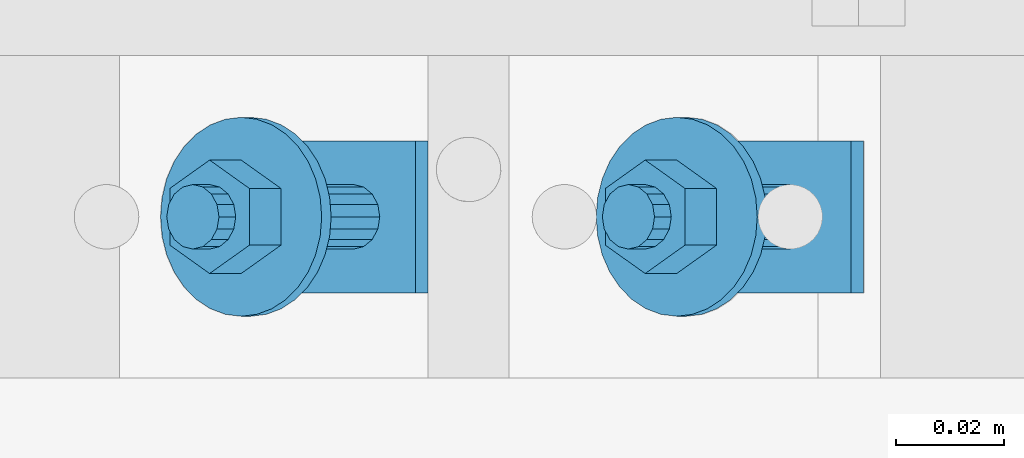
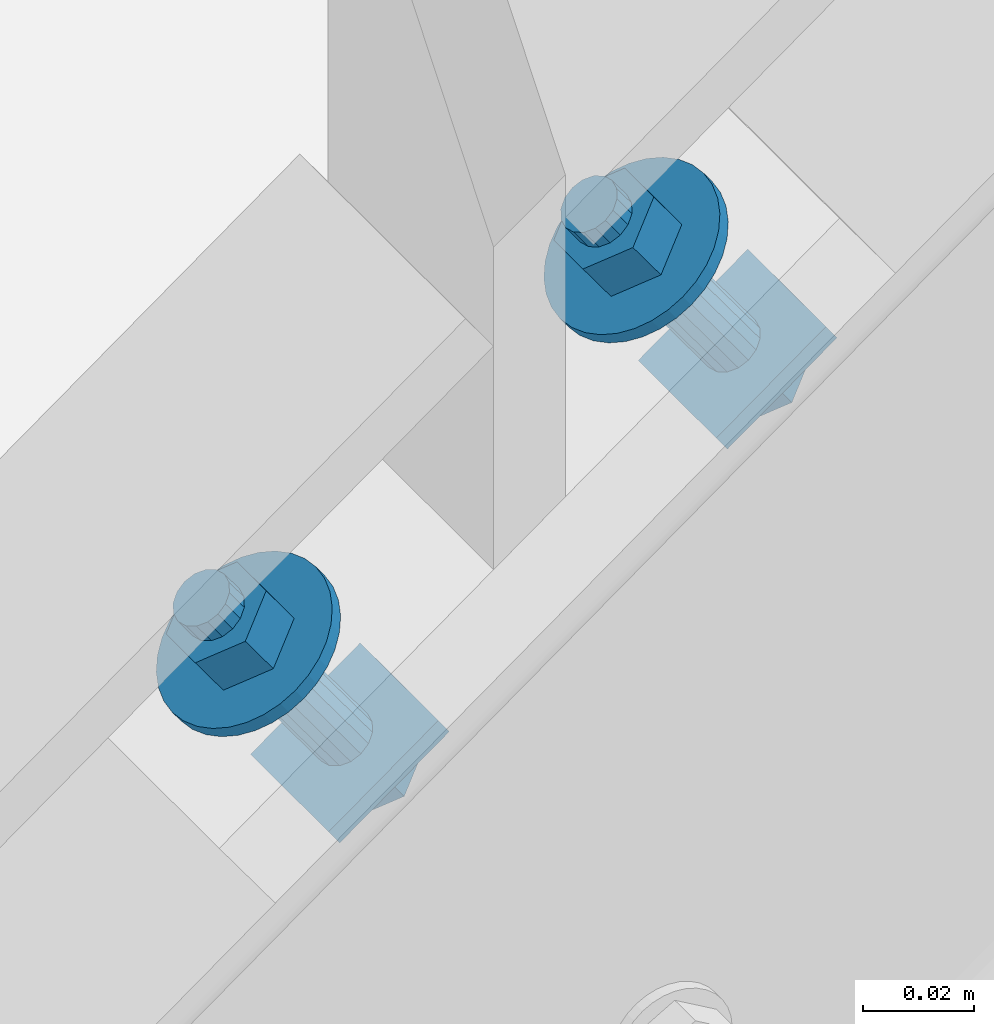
# One storey, part 324 of 825: 1 mechanical fastener.
"""IFC2X3 building model written with IfcOpenShell, lengths in millimetres."""

from ifc_helpers import new_model, entity, si_unit, converted_unit, origin_with_axes, place, context, project, spatial, faceted_brep, element, save


model = new_model("IFC2X3")

# Units and contexts
model_context = context("Model", 3, precision=1e-09, world=origin_with_axes())
ifc_project = project(units=[si_unit("LENGTHUNIT", "METRE", prefix="MILLI"), si_unit("AREAUNIT", "SQUARE_METRE"), si_unit("VOLUMEUNIT", "CUBIC_METRE"), converted_unit("PLANEANGLEUNIT", "DEGREE", entity("IfcPlaneAngleMeasure", 0.01745329), si_unit("PLANEANGLEUNIT", "RADIAN"), dimensions=[0, 0, 0, 0, 0, 0, 0])], contexts=[model_context])

# Site, building, storey
site_placement = place(None, origin_with_axes())
site = spatial("IfcSite", under=ifc_project, at=site_placement, Name="Cnopf'sche Kinderklinik", CompositionType="ELEMENT")
building_placement = place(site_placement, origin_with_axes())
building = spatial("IfcBuilding", under=site, at=building_placement, Name="Struktur 1", CompositionType="ELEMENT")
storey_placement = place(building_placement, origin_with_axes())
storey = spatial("IfcBuildingStorey", under=building, at=storey_placement, Name="Default Storey", CompositionType="ELEMENT", Elevation=0.0)

# Mechanical fastener
mechanical_fastener_placement = place(None, origin_with_axes())
element("IfcMechanicalFastener", 1, at=mechanical_fastener_placement, inside=storey, ObjectType="Bolt#501", NominalDiameter=12.0, NominalLength=55.0, context=model_context, shape_type="Brep", body=[
    faceted_brep([(5972.646640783, 6077.59483628, 13131.147669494), (5970.301104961, 6077.59483628, 13134.38780247), (5947.389904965, 6077.59483628, 13117.802359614), (5949.735440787, 6077.59483628, 13114.562226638), (5947.389904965, 6105.879107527, 13117.802359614), (5949.735440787, 6105.879107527, 13114.562226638), (5970.301104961, 6105.879107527, 13134.38780247), (5972.646640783, 6105.879107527, 13131.147669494)], [[[0, 1, 2, 3]], [[3, 2, 4, 5]], [[5, 4, 6, 7]], [[7, 6, 1, 0]], [[3, 5, 7, 0]], [[2, 1, 6, 4]]]),
    faceted_brep([(5891.643316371, 6077.59483628, 13072.509273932), (5889.297780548, 6077.59483628, 13075.749406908), (5866.386580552, 6077.59483628, 13059.163964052), (5868.732116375, 6077.59483628, 13055.923831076), (5866.386580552, 6105.879107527, 13059.163964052), (5868.732116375, 6105.879107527, 13055.923831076), (5889.297780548, 6105.879107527, 13075.749406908), (5891.643316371, 6105.879107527, 13072.509273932)], [[[0, 1, 2, 3]], [[3, 2, 4, 5]], [[5, 4, 6, 7]], [[7, 6, 1, 0]], [[3, 5, 7, 0]], [[2, 1, 6, 4]]]),
    faceted_brep([(5972.614536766, 6086.729471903, 13121.865550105), (5968.216657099, 6086.729471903, 13127.940799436), (5961.191040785, 6081.721971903, 13122.854948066), (5965.588920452, 6081.721971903, 13116.779698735), (5954.165424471, 6086.729471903, 13117.769096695), (5958.563304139, 6086.729471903, 13111.693847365), (5954.165424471, 6096.744471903, 13117.769096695), (5958.563304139, 6096.744471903, 13111.693847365), (5961.191040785, 6101.751971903, 13122.854948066), (5965.588920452, 6101.751971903, 13116.779698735), (5968.216657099, 6096.744471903, 13127.940799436), (5972.614536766, 6096.744471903, 13121.865550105)], [[[0, 1, 2, 3]], [[3, 2, 4, 5]], [[5, 4, 6, 7]], [[7, 6, 8, 9]], [[9, 8, 10, 11]], [[11, 10, 1, 0]], [[3, 5, 7, 9, 11, 0]], [[2, 1, 10, 8, 6, 4]]]),
    faceted_brep([(5891.611212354, 6086.729471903, 13063.227154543), (5887.213332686, 6086.729471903, 13069.302403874), (5880.187716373, 6081.721971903, 13064.216552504), (5884.58559604, 6081.721971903, 13058.141303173), (5873.162100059, 6086.729471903, 13059.130701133), (5877.559979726, 6086.729471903, 13053.055451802), (5873.162100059, 6096.744471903, 13059.130701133), (5877.559979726, 6096.744471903, 13053.055451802), (5880.187716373, 6101.751971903, 13064.216552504), (5884.58559604, 6101.751971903, 13058.141303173), (5887.213332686, 6096.744471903, 13069.302403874), (5891.611212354, 6096.744471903, 13063.227154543)], [[[0, 1, 2, 3]], [[3, 2, 4, 5]], [[5, 4, 6, 7]], [[7, 6, 8, 9]], [[9, 8, 10, 11]], [[11, 10, 1, 0]], [[3, 5, 7, 9, 11, 0]], [[2, 1, 10, 8, 6, 4]]]),
    faceted_brep([(5934.820633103, 6091.736971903, 13149.050935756), (5953.985305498, 6091.736971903, 13122.576777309), (5954.355266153, 6089.440871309, 13122.844592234), (5935.190593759, 6089.440871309, 13149.318750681), (5955.408824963, 6087.494331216, 13123.607264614), (5936.244152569, 6087.494331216, 13150.081423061), (5956.98558715, 6086.193694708, 13124.748684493), (5937.820914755, 6086.193694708, 13151.222842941), (5958.845504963, 6085.736971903, 13126.095081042), (5939.680832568, 6085.736971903, 13152.56923949), (5960.705422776, 6086.193694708, 13127.441477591), (5941.540750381, 6086.193694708, 13153.915636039), (5962.282184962, 6087.494331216, 13128.582897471), (5943.117512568, 6087.494331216, 13155.057055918), (5963.335743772, 6089.440871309, 13129.345569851), (5944.171071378, 6089.440871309, 13155.819728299), (5963.705704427, 6091.736971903, 13129.613384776), (5944.541032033, 6091.736971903, 13156.087543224), (5963.335743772, 6094.033072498, 13129.345569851), (5944.171071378, 6094.033072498, 13155.819728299), (5962.282184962, 6095.97961259, 13128.582897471), (5943.117512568, 6095.97961259, 13155.057055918), (5960.705422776, 6097.280249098, 13127.441477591), (5941.540750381, 6097.280249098, 13153.915636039), (5958.845504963, 6097.736971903, 13126.095081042), (5939.680832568, 6097.736971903, 13152.56923949), (5956.98558715, 6097.280249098, 13124.748684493), (5937.820914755, 6097.280249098, 13151.222842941), (5955.408824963, 6095.97961259, 13123.607264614), (5936.244152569, 6095.97961259, 13150.081423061), (5954.355266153, 6094.033072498, 13122.844592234), (5935.190593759, 6094.033072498, 13149.318750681)], [[[0, 1, 2, 3]], [[3, 2, 4, 5]], [[5, 4, 6, 7]], [[7, 6, 8, 9]], [[9, 8, 10, 11]], [[11, 10, 12, 13]], [[13, 12, 14, 15]], [[15, 14, 16, 17]], [[17, 16, 18, 19]], [[19, 18, 20, 21]], [[21, 20, 22, 23]], [[23, 22, 24, 25]], [[25, 24, 26, 27]], [[27, 26, 28, 29]], [[29, 28, 30, 31]], [[31, 30, 1, 0]], [[2, 1, 30, 28, 26, 24, 22, 20, 18, 16, 14, 12, 10, 8, 6, 4]], [[31, 0, 3, 5, 7, 9, 11, 13, 15, 17, 19, 21, 23, 25, 27, 29]]]),
    faceted_brep([(5853.817308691, 6091.736971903, 13090.412540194), (5872.981981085, 6091.736971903, 13063.938381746), (5873.351941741, 6089.440871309, 13064.206196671), (5854.187269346, 6089.440871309, 13090.680355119), (5874.405500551, 6087.494331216, 13064.968869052), (5855.240828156, 6087.494331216, 13091.443027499), (5875.982262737, 6086.193694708, 13066.110288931), (5856.817590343, 6086.193694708, 13092.584447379), (5877.84218055, 6085.736971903, 13067.45668548), (5858.677508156, 6085.736971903, 13093.930843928), (5879.702098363, 6086.193694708, 13068.803082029), (5860.537425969, 6086.193694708, 13095.277240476), (5881.27886055, 6087.494331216, 13069.944501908), (5862.114188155, 6087.494331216, 13096.418660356), (5882.33241936, 6089.440871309, 13070.707174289), (5863.167746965, 6089.440871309, 13097.181332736), (5882.702380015, 6091.736971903, 13070.974989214), (5863.537707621, 6091.736971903, 13097.449147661), (5882.33241936, 6094.033072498, 13070.707174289), (5863.167746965, 6094.033072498, 13097.181332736), (5881.27886055, 6095.97961259, 13069.944501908), (5862.114188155, 6095.97961259, 13096.418660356), (5879.702098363, 6097.280249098, 13068.803082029), (5860.537425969, 6097.280249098, 13095.277240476), (5877.84218055, 6097.736971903, 13067.45668548), (5858.677508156, 6097.736971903, 13093.930843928), (5875.982262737, 6097.280249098, 13066.110288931), (5856.817590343, 6097.280249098, 13092.584447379), (5874.405500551, 6095.97961259, 13064.968869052), (5855.240828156, 6095.97961259, 13091.443027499), (5873.351941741, 6094.033072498, 13064.206196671), (5854.187269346, 6094.033072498, 13090.680355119)], [[[0, 1, 2, 3]], [[3, 2, 4, 5]], [[5, 4, 6, 7]], [[7, 6, 8, 9]], [[9, 8, 10, 11]], [[11, 10, 12, 13]], [[13, 12, 14, 15]], [[15, 14, 16, 17]], [[17, 16, 18, 19]], [[19, 18, 20, 21]], [[21, 20, 22, 23]], [[23, 22, 24, 25]], [[25, 24, 26, 27]], [[27, 26, 28, 29]], [[29, 28, 30, 31]], [[31, 30, 1, 0]], [[2, 1, 30, 28, 26, 24, 22, 20, 18, 16, 14, 12, 10, 8, 6, 4]], [[31, 0, 3, 5, 7, 9, 11, 13, 15, 17, 19, 21, 23, 25, 27, 29]]]),
    faceted_brep([(5922.936065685, 6091.736971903, 13144.151236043), (5924.695217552, 6091.736971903, 13141.721136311), (5924.983161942, 6088.127800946, 13141.929579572), (5923.224010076, 6088.127800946, 13144.359679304), (5925.835929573, 6084.657328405, 13142.546898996), (5924.076777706, 6084.657328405, 13144.976998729), (5927.220749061, 6081.458922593, 13143.549371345), (5925.461597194, 6081.458922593, 13145.979471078), (5929.08440257, 6078.655496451, 13144.898472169), (5927.325250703, 6078.655496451, 13147.328571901), (5931.355270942, 6076.354784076, 13146.542356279), (5929.596119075, 6076.354784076, 13148.972456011), (5933.946085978, 6074.645200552, 13148.417850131), (5932.186934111, 6074.645200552, 13150.847949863), (5936.757284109, 6073.592444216, 13150.452879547), (5934.998132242, 6073.592444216, 13152.88297928), (5939.680832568, 6073.236971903, 13152.56923949), (5937.921680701, 6073.236971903, 13154.999339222), (5942.604381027, 6073.592444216, 13154.685599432), (5940.845229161, 6073.592444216, 13157.115699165), (5945.415579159, 6074.645200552, 13156.720628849), (5943.656427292, 6074.645200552, 13159.150728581), (5948.006394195, 6076.354784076, 13158.596122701), (5946.247242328, 6076.354784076, 13161.026222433), (5950.277262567, 6078.655496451, 13160.240006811), (5948.5181107, 6078.655496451, 13162.670106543), (5952.140916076, 6081.458922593, 13161.589107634), (5950.381764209, 6081.458922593, 13164.019207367), (5953.525735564, 6084.657328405, 13162.591579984), (5951.766583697, 6084.657328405, 13165.021679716), (5954.378503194, 6088.127800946, 13163.208899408), (5952.619351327, 6088.127800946, 13165.638999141), (5954.666447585, 6091.736971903, 13163.417342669), (5952.907295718, 6091.736971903, 13165.847442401), (5954.378503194, 6095.346142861, 13163.208899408), (5952.619351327, 6095.346142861, 13165.638999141), (5953.525735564, 6098.816615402, 13162.591579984), (5951.766583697, 6098.816615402, 13165.021679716), (5952.140916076, 6102.015021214, 13161.589107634), (5950.381764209, 6102.015021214, 13164.019207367), (5950.277262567, 6104.818447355, 13160.240006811), (5948.5181107, 6104.818447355, 13162.670106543), (5948.006394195, 6107.119159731, 13158.596122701), (5946.247242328, 6107.119159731, 13161.026222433), (5945.415579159, 6108.828743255, 13156.720628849), (5943.656427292, 6108.828743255, 13159.150728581), (5942.604381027, 6109.881499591, 13154.685599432), (5940.845229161, 6109.881499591, 13157.115699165), (5939.680832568, 6110.236971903, 13152.56923949), (5937.921680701, 6110.236971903, 13154.999339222), (5936.757284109, 6109.881499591, 13150.452879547), (5934.998132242, 6109.881499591, 13152.88297928), (5933.946085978, 6108.828743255, 13148.417850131), (5932.186934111, 6108.828743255, 13150.847949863), (5931.355270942, 6107.119159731, 13146.542356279), (5929.596119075, 6107.119159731, 13148.972456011), (5929.08440257, 6104.818447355, 13144.898472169), (5927.325250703, 6104.818447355, 13147.328571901), (5927.220749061, 6102.015021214, 13143.549371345), (5925.461597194, 6102.015021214, 13145.979471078), (5925.835929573, 6098.816615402, 13142.546898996), (5924.076777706, 6098.816615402, 13144.976998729), (5924.983161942, 6095.346142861, 13141.929579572), (5923.224010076, 6095.346142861, 13144.359679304)], [[[0, 1, 2, 3]], [[3, 2, 4, 5]], [[5, 4, 6, 7]], [[7, 6, 8, 9]], [[9, 8, 10, 11]], [[11, 10, 12, 13]], [[13, 12, 14, 15]], [[15, 14, 16, 17]], [[17, 16, 18, 19]], [[19, 18, 20, 21]], [[21, 20, 22, 23]], [[23, 22, 24, 25]], [[25, 24, 26, 27]], [[27, 26, 28, 29]], [[29, 28, 30, 31]], [[31, 30, 32, 33]], [[33, 32, 34, 35]], [[35, 34, 36, 37]], [[37, 36, 38, 39]], [[39, 38, 40, 41]], [[41, 40, 42, 43]], [[43, 42, 44, 45]], [[45, 44, 46, 47]], [[47, 46, 48, 49]], [[49, 48, 50, 51]], [[51, 50, 52, 53]], [[53, 52, 54, 55]], [[55, 54, 56, 57]], [[57, 56, 58, 59]], [[59, 58, 60, 61]], [[61, 60, 62, 63]], [[63, 62, 1, 0]], [[2, 1, 62, 60, 58, 56, 54, 52, 50, 48, 46, 44, 42, 40, 38, 36, 34, 32, 30, 28, 26, 24, 22, 20, 18, 16, 14, 12, 10, 8, 6, 4]], [[63, 0, 3, 5, 7, 9, 11, 13, 15, 17, 19, 21, 23, 25, 27, 29, 31, 33, 35, 37, 39, 41, 43, 45, 47, 49, 51, 53, 55, 57, 59, 61]]]),
    faceted_brep([(5841.932741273, 6091.736971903, 13085.512840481), (5843.691893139, 6091.736971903, 13083.082740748), (5843.97983753, 6088.127800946, 13083.291184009), (5842.220685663, 6088.127800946, 13085.721283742), (5844.83260516, 6084.657328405, 13083.908503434), (5843.073453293, 6084.657328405, 13086.338603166), (5846.217424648, 6081.458922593, 13084.910975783), (5844.458272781, 6081.458922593, 13087.341075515), (5848.081078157, 6078.655496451, 13086.260076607), (5846.321926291, 6078.655496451, 13088.690176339), (5850.351946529, 6076.354784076, 13087.903960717), (5848.592794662, 6076.354784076, 13090.334060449), (5852.942761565, 6074.645200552, 13089.779454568), (5851.183609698, 6074.645200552, 13092.209554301), (5855.753959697, 6073.592444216, 13091.814483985), (5853.99480783, 6073.592444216, 13094.244583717), (5858.677508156, 6073.236971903, 13093.930843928), (5856.918356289, 6073.236971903, 13096.36094366), (5861.601056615, 6073.592444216, 13096.04720387), (5859.841904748, 6073.592444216, 13098.477303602), (5864.412254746, 6074.645200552, 13098.082233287), (5862.653102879, 6074.645200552, 13100.512333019), (5867.003069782, 6076.354784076, 13099.957727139), (5865.243917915, 6076.354784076, 13102.387826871), (5869.273938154, 6078.655496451, 13101.601611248), (5867.514786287, 6078.655496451, 13104.031710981), (5871.137591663, 6081.458922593, 13102.950712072), (5869.378439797, 6081.458922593, 13105.380811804), (5872.522411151, 6084.657328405, 13103.953184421), (5870.763259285, 6084.657328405, 13106.383284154), (5873.375178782, 6088.127800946, 13104.570503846), (5871.616026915, 6088.127800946, 13107.000603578), (5873.663123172, 6091.736971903, 13104.778947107), (5871.903971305, 6091.736971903, 13107.209046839), (5873.375178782, 6095.346142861, 13104.570503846), (5871.616026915, 6095.346142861, 13107.000603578), (5872.522411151, 6098.816615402, 13103.953184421), (5870.763259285, 6098.816615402, 13106.383284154), (5871.137591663, 6102.015021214, 13102.950712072), (5869.378439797, 6102.015021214, 13105.380811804), (5869.273938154, 6104.818447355, 13101.601611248), (5867.514786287, 6104.818447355, 13104.031710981), (5867.003069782, 6107.119159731, 13099.957727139), (5865.243917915, 6107.119159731, 13102.387826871), (5864.412254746, 6108.828743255, 13098.082233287), (5862.653102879, 6108.828743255, 13100.512333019), (5861.601056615, 6109.881499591, 13096.04720387), (5859.841904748, 6109.881499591, 13098.477303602), (5858.677508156, 6110.236971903, 13093.930843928), (5856.918356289, 6110.236971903, 13096.36094366), (5855.753959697, 6109.881499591, 13091.814483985), (5853.99480783, 6109.881499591, 13094.244583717), (5852.942761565, 6108.828743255, 13089.779454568), (5851.183609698, 6108.828743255, 13092.209554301), (5850.351946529, 6107.119159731, 13087.903960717), (5848.592794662, 6107.119159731, 13090.334060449), (5848.081078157, 6104.818447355, 13086.260076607), (5846.321926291, 6104.818447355, 13088.690176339), (5846.217424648, 6102.015021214, 13084.910975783), (5844.458272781, 6102.015021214, 13087.341075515), (5844.83260516, 6098.816615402, 13083.908503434), (5843.073453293, 6098.816615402, 13086.338603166), (5843.97983753, 6095.346142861, 13083.291184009), (5842.220685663, 6095.346142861, 13085.721283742)], [[[0, 1, 2, 3]], [[3, 2, 4, 5]], [[5, 4, 6, 7]], [[7, 6, 8, 9]], [[9, 8, 10, 11]], [[11, 10, 12, 13]], [[13, 12, 14, 15]], [[15, 14, 16, 17]], [[17, 16, 18, 19]], [[19, 18, 20, 21]], [[21, 20, 22, 23]], [[23, 22, 24, 25]], [[25, 24, 26, 27]], [[27, 26, 28, 29]], [[29, 28, 30, 31]], [[31, 30, 32, 33]], [[33, 32, 34, 35]], [[35, 34, 36, 37]], [[37, 36, 38, 39]], [[39, 38, 40, 41]], [[41, 40, 42, 43]], [[43, 42, 44, 45]], [[45, 44, 46, 47]], [[47, 46, 48, 49]], [[49, 48, 50, 51]], [[51, 50, 52, 53]], [[53, 52, 54, 55]], [[55, 54, 56, 57]], [[57, 56, 58, 59]], [[59, 58, 60, 61]], [[61, 60, 62, 63]], [[63, 62, 1, 0]], [[2, 1, 62, 60, 58, 56, 54, 52, 50, 48, 46, 44, 42, 40, 38, 36, 34, 32, 30, 28, 26, 24, 22, 20, 18, 16, 14, 12, 10, 8, 6, 4]], [[63, 0, 3, 5, 7, 9, 11, 13, 15, 17, 19, 21, 23, 25, 27, 29, 31, 33, 35, 37, 39, 41, 43, 45, 47, 49, 51, 53, 55, 57, 59, 61]]]),
    faceted_brep([(5945.322604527, 6086.461971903, 13160.356876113), (5939.45876497, 6086.461971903, 13168.457208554), (5932.057841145, 6081.186971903, 13163.099671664), (5937.921680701, 6081.186971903, 13154.999339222), (5924.65691732, 6086.461971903, 13157.742134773), (5930.520756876, 6086.461971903, 13149.641802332), (5924.65691732, 6097.011971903, 13157.742134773), (5930.520756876, 6097.011971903, 13149.641802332), (5932.057841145, 6102.286971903, 13163.099671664), (5937.921680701, 6102.286971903, 13154.999339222), (5939.45876497, 6097.011971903, 13168.457208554), (5945.322604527, 6097.011971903, 13160.356876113)], [[[0, 1, 2, 3]], [[3, 2, 4, 5]], [[5, 4, 6, 7]], [[7, 6, 8, 9]], [[9, 8, 10, 11]], [[11, 10, 1, 0]], [[3, 5, 7, 9, 11, 0]], [[2, 1, 10, 8, 6, 4]]]),
    faceted_brep([(5864.319280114, 6086.461971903, 13101.71848055), (5858.455440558, 6086.461971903, 13109.818812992), (5851.054516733, 6081.186971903, 13104.461276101), (5856.918356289, 6081.186971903, 13096.36094366), (5843.653592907, 6086.461971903, 13099.103739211), (5849.517432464, 6086.461971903, 13091.003406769), (5843.653592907, 6097.011971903, 13099.103739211), (5849.517432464, 6097.011971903, 13091.003406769), (5851.054516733, 6102.286971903, 13104.461276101), (5856.918356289, 6102.286971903, 13096.36094366), (5858.455440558, 6097.011971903, 13109.818812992), (5864.319280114, 6097.011971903, 13101.71848055)], [[[0, 1, 2, 3]], [[3, 2, 4, 5]], [[5, 4, 6, 7]], [[7, 6, 8, 9]], [[9, 8, 10, 11]], [[11, 10, 1, 0]], [[3, 5, 7, 9, 11, 0]], [[2, 1, 10, 8, 6, 4]]]),
    faceted_brep([(5924.079723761, 6091.736971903, 13163.888472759), (5927.19764168, 6091.736971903, 13159.58136793), (5927.567602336, 6089.440871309, 13159.849182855), (5924.449684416, 6089.440871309, 13164.156287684), (5928.621161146, 6087.494331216, 13160.611855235), (5925.503243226, 6087.494331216, 13164.918960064), (5930.197923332, 6086.193694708, 13161.753275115), (5927.080005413, 6086.193694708, 13166.060379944), (5932.057841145, 6085.736971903, 13163.099671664), (5928.939923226, 6085.736971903, 13167.406776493), (5933.917758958, 6086.193694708, 13164.446068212), (5930.799841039, 6086.193694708, 13168.753173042), (5935.494521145, 6087.494331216, 13165.587488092), (5932.376603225, 6087.494331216, 13169.894592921), (5936.548079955, 6089.440871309, 13166.350160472), (5933.430162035, 6089.440871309, 13170.657265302), (5936.91804061, 6091.736971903, 13166.617975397), (5933.800122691, 6091.736971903, 13170.925080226), (5936.548079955, 6094.033072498, 13166.350160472), (5933.430162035, 6094.033072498, 13170.657265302), (5935.494521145, 6095.97961259, 13165.587488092), (5932.376603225, 6095.97961259, 13169.894592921), (5933.917758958, 6097.280249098, 13164.446068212), (5930.799841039, 6097.280249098, 13168.753173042), (5932.057841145, 6097.736971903, 13163.099671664), (5928.939923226, 6097.736971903, 13167.406776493), (5930.197923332, 6097.280249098, 13161.753275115), (5927.080005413, 6097.280249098, 13166.060379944), (5928.621161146, 6095.97961259, 13160.611855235), (5925.503243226, 6095.97961259, 13164.918960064), (5927.567602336, 6094.033072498, 13159.849182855), (5924.449684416, 6094.033072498, 13164.156287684)], [[[0, 1, 2, 3]], [[3, 2, 4, 5]], [[5, 4, 6, 7]], [[7, 6, 8, 9]], [[9, 8, 10, 11]], [[11, 10, 12, 13]], [[13, 12, 14, 15]], [[15, 14, 16, 17]], [[17, 16, 18, 19]], [[19, 18, 20, 21]], [[21, 20, 22, 23]], [[23, 22, 24, 25]], [[25, 24, 26, 27]], [[27, 26, 28, 29]], [[29, 28, 30, 31]], [[31, 30, 1, 0]], [[2, 1, 30, 28, 26, 24, 22, 20, 18, 16, 14, 12, 10, 8, 6, 4]], [[31, 0, 3, 5, 7, 9, 11, 13, 15, 17, 19, 21, 23, 25, 27, 29]]]),
    faceted_brep([(5843.076399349, 6091.736971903, 13105.250077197), (5846.194317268, 6091.736971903, 13100.942972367), (5846.564277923, 6089.440871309, 13101.210787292), (5843.446360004, 6089.440871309, 13105.517892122), (5847.617836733, 6087.494331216, 13101.973459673), (5844.499918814, 6087.494331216, 13106.280564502), (5849.19459892, 6086.193694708, 13103.114879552), (5846.076681, 6086.193694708, 13107.421984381), (5851.054516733, 6085.736971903, 13104.461276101), (5847.936598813, 6085.736971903, 13108.76838093), (5852.914434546, 6086.193694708, 13105.80767265), (5849.796516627, 6086.193694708, 13110.114777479), (5854.491196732, 6087.494331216, 13106.94909253), (5851.373278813, 6087.494331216, 13111.256197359), (5855.544755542, 6089.440871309, 13107.71176491), (5852.426837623, 6089.440871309, 13112.018869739), (5855.914716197, 6091.736971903, 13107.979579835), (5852.796798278, 6091.736971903, 13112.286684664), (5855.544755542, 6094.033072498, 13107.71176491), (5852.426837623, 6094.033072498, 13112.018869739), (5854.491196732, 6095.97961259, 13106.94909253), (5851.373278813, 6095.97961259, 13111.256197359), (5852.914434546, 6097.280249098, 13105.80767265), (5849.796516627, 6097.280249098, 13110.114777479), (5851.054516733, 6097.736971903, 13104.461276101), (5847.936598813, 6097.736971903, 13108.76838093), (5849.19459892, 6097.280249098, 13103.114879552), (5846.076681, 6097.280249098, 13107.421984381), (5847.617836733, 6095.97961259, 13101.973459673), (5844.499918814, 6095.97961259, 13106.280564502), (5846.564277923, 6094.033072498, 13101.210787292), (5843.446360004, 6094.033072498, 13105.517892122)], [[[0, 1, 2, 3]], [[3, 2, 4, 5]], [[5, 4, 6, 7]], [[7, 6, 8, 9]], [[9, 8, 10, 11]], [[11, 10, 12, 13]], [[13, 12, 14, 15]], [[15, 14, 16, 17]], [[17, 16, 18, 19]], [[19, 18, 20, 21]], [[21, 20, 22, 23]], [[23, 22, 24, 25]], [[25, 24, 26, 27]], [[27, 26, 28, 29]], [[29, 28, 30, 31]], [[31, 30, 1, 0]], [[2, 1, 30, 28, 26, 24, 22, 20, 18, 16, 14, 12, 10, 8, 6, 4]], [[31, 0, 3, 5, 7, 9, 11, 13, 15, 17, 19, 21, 23, 25, 27, 29]]]),
])

save(model, "model.ifc")
